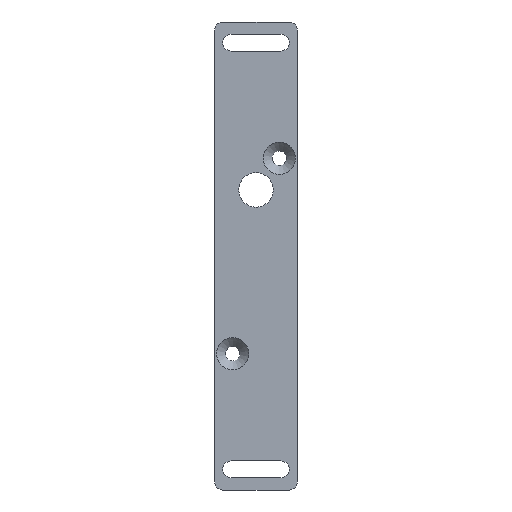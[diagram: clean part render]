
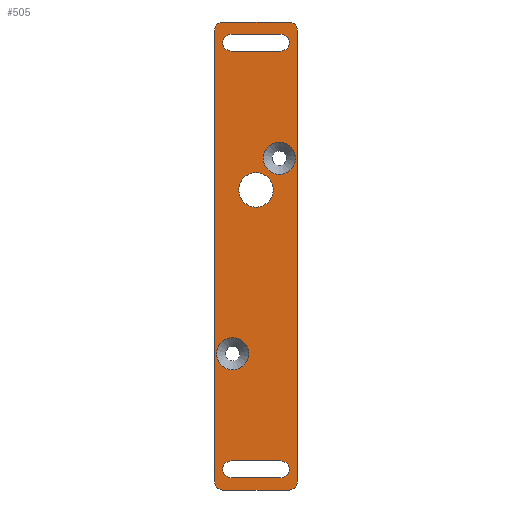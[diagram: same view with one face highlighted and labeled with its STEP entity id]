
A CAD part, front view. The second image highlights one B-rep face of the part: STEP entity #505.
In plain terms, the highlighted planar face has unit normal (0, -1, 0).
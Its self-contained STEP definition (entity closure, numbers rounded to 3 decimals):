
#73=CARTESIAN_POINT('',(0.0,0.0,30.25));
#74=VERTEX_POINT('',#73);
#75=CARTESIAN_POINT('',(0.0,0.0,24.));
#76=DIRECTION('',(0.0,-1.0,0.0));
#77=DIRECTION('',(0.0,0.0,1.0));
#78=AXIS2_PLACEMENT_3D('',#75,#76,#77);
#79=CIRCLE('',#78,6.25);
#80=EDGE_CURVE('',#74,#74,#79,.T.);
#132=CARTESIAN_POINT('',(-8.5,0.,-41.35));
#133=VERTEX_POINT('',#132);
#134=CARTESIAN_POINT('',(-8.5,0.,-35.5));
#135=DIRECTION('',(0.0,1.0,0.0));
#136=DIRECTION('',(0.0,0.0,1.0));
#137=AXIS2_PLACEMENT_3D('',#134,#135,#136);
#138=CIRCLE('',#137,5.85);
#139=EDGE_CURVE('',#133,#133,#138,.T.);
#180=CARTESIAN_POINT('',(8.5,0.,29.65));
#181=VERTEX_POINT('',#180);
#182=CARTESIAN_POINT('',(8.5,0.,35.5));
#183=DIRECTION('',(0.0,1.0,0.0));
#184=DIRECTION('',(0.0,0.0,1.0));
#185=AXIS2_PLACEMENT_3D('',#182,#183,#184);
#186=CIRCLE('',#185,5.85);
#187=EDGE_CURVE('',#181,#181,#186,.T.);
#349=CARTESIAN_POINT('',(-15.,0.0,85.0));
#350=DIRECTION('',(0.0,1.0,0.0));
#351=DIRECTION('',(0.0,0.0,1.0));
#352=AXIS2_PLACEMENT_3D('',#349,#350,#351);
#353=PLANE('',#352);
#354=CARTESIAN_POINT('',(-15.,0.0,-82.));
#355=VERTEX_POINT('',#354);
#356=CARTESIAN_POINT('',(-15.,0.0,82.));
#357=VERTEX_POINT('',#356);
#358=CARTESIAN_POINT('',(-15.,0.0,-82.));
#359=DIRECTION('',(0.0,0.0,1.0));
#360=VECTOR('',#359,164.);
#361=LINE('',#358,#360);
#362=EDGE_CURVE('',#355,#357,#361,.T.);
#363=ORIENTED_EDGE('',*,*,#362,.F.);
#364=CARTESIAN_POINT('',(-12.,0.0,-85.0));
#365=VERTEX_POINT('',#364);
#366=CARTESIAN_POINT('',(-12.,0.0,-82.));
#367=DIRECTION('',(0.0,-1.0,0.0));
#368=DIRECTION('',(0.0,0.0,1.0));
#369=AXIS2_PLACEMENT_3D('',#366,#367,#368);
#370=CIRCLE('',#369,3.);
#371=EDGE_CURVE('',#355,#365,#370,.T.);
#372=ORIENTED_EDGE('',*,*,#371,.T.);
#373=CARTESIAN_POINT('',(12.,0.0,-85.0));
#374=VERTEX_POINT('',#373);
#375=CARTESIAN_POINT('',(12.,0.0,-85.0));
#376=DIRECTION('',(-1.0,0.0,0.0));
#377=VECTOR('',#376,24.0);
#378=LINE('',#375,#377);
#379=EDGE_CURVE('',#374,#365,#378,.T.);
#380=ORIENTED_EDGE('',*,*,#379,.F.);
#381=CARTESIAN_POINT('',(15.,0.0,-82.));
#382=VERTEX_POINT('',#381);
#383=CARTESIAN_POINT('',(12.,0.0,-82.));
#384=DIRECTION('',(0.0,-1.0,0.0));
#385=DIRECTION('',(0.0,0.0,1.0));
#386=AXIS2_PLACEMENT_3D('',#383,#384,#385);
#387=CIRCLE('',#386,3.);
#388=EDGE_CURVE('',#374,#382,#387,.T.);
#389=ORIENTED_EDGE('',*,*,#388,.T.);
#390=CARTESIAN_POINT('',(15.,0.0,82.));
#391=VERTEX_POINT('',#390);
#392=CARTESIAN_POINT('',(15.,0.0,82.));
#393=DIRECTION('',(0.0,0.0,-1.0));
#394=VECTOR('',#393,164.);
#395=LINE('',#392,#394);
#396=EDGE_CURVE('',#391,#382,#395,.T.);
#397=ORIENTED_EDGE('',*,*,#396,.F.);
#398=CARTESIAN_POINT('',(12.,0.0,85.0));
#399=VERTEX_POINT('',#398);
#400=CARTESIAN_POINT('',(12.,0.0,82.));
#401=DIRECTION('',(0.0,-1.0,0.0));
#402=DIRECTION('',(0.0,0.0,1.0));
#403=AXIS2_PLACEMENT_3D('',#400,#401,#402);
#404=CIRCLE('',#403,3.);
#405=EDGE_CURVE('',#391,#399,#404,.T.);
#406=ORIENTED_EDGE('',*,*,#405,.T.);
#407=CARTESIAN_POINT('',(-12.,0.0,85.0));
#408=VERTEX_POINT('',#407);
#409=CARTESIAN_POINT('',(-12.,0.0,85.0));
#410=DIRECTION('',(1.0,0.0,0.0));
#411=VECTOR('',#410,24.0);
#412=LINE('',#409,#411);
#413=EDGE_CURVE('',#408,#399,#412,.T.);
#414=ORIENTED_EDGE('',*,*,#413,.F.);
#415=CARTESIAN_POINT('',(-12.,0.0,82.));
#416=DIRECTION('',(0.0,-1.0,0.0));
#417=DIRECTION('',(0.0,0.0,1.0));
#418=AXIS2_PLACEMENT_3D('',#415,#416,#417);
#419=CIRCLE('',#418,3.);
#420=EDGE_CURVE('',#408,#357,#419,.T.);
#421=ORIENTED_EDGE('',*,*,#420,.T.);
#422=EDGE_LOOP('',(#363,#372,#380,#389,#397,#406,#414,#421));
#423=FACE_OUTER_BOUND('',#422,.T.);
#424=ORIENTED_EDGE('',*,*,#187,.T.);
#425=EDGE_LOOP('',(#424));
#426=FACE_BOUND('',#425,.T.);
#427=ORIENTED_EDGE('',*,*,#139,.T.);
#428=EDGE_LOOP('',(#427));
#429=FACE_BOUND('',#428,.T.);
#430=CARTESIAN_POINT('',(-9.0,0.0,-80.55));
#431=VERTEX_POINT('',#430);
#432=CARTESIAN_POINT('',(9.0,0.0,-80.55));
#433=VERTEX_POINT('',#432);
#434=CARTESIAN_POINT('',(-9.0,0.0,-80.55));
#435=DIRECTION('',(1.0,0.0,0.0));
#436=VECTOR('',#435,18.0);
#437=LINE('',#434,#436);
#438=EDGE_CURVE('',#431,#433,#437,.T.);
#439=ORIENTED_EDGE('',*,*,#438,.F.);
#440=CARTESIAN_POINT('',(-9.,0.0,-74.45));
#441=VERTEX_POINT('',#440);
#442=CARTESIAN_POINT('',(-9.0,0.0,-77.5));
#443=DIRECTION('',(0.0,-1.0,0.0));
#444=DIRECTION('',(0.0,0.0,1.0));
#445=AXIS2_PLACEMENT_3D('',#442,#443,#444);
#446=CIRCLE('',#445,3.05);
#447=EDGE_CURVE('',#441,#431,#446,.T.);
#448=ORIENTED_EDGE('',*,*,#447,.F.);
#449=CARTESIAN_POINT('',(9.,0.0,-74.45));
#450=VERTEX_POINT('',#449);
#451=CARTESIAN_POINT('',(9.,0.0,-74.45));
#452=DIRECTION('',(-1.0,0.0,0.0));
#453=VECTOR('',#452,18.);
#454=LINE('',#451,#453);
#455=EDGE_CURVE('',#450,#441,#454,.T.);
#456=ORIENTED_EDGE('',*,*,#455,.F.);
#457=CARTESIAN_POINT('',(9.0,0.0,-77.5));
#458=DIRECTION('',(0.0,-1.0,0.0));
#459=DIRECTION('',(0.0,0.0,1.0));
#460=AXIS2_PLACEMENT_3D('',#457,#458,#459);
#461=CIRCLE('',#460,3.05);
#462=EDGE_CURVE('',#433,#450,#461,.T.);
#463=ORIENTED_EDGE('',*,*,#462,.F.);
#464=EDGE_LOOP('',(#439,#448,#456,#463));
#465=FACE_BOUND('',#464,.T.);
#466=ORIENTED_EDGE('',*,*,#80,.F.);
#467=EDGE_LOOP('',(#466));
#468=FACE_BOUND('',#467,.T.);
#469=CARTESIAN_POINT('',(-9.,0.0,74.45));
#470=VERTEX_POINT('',#469);
#471=CARTESIAN_POINT('',(-9.0,0.0,80.55));
#472=VERTEX_POINT('',#471);
#473=CARTESIAN_POINT('',(-9.0,0.0,77.5));
#474=DIRECTION('',(0.0,1.0,0.0));
#475=DIRECTION('',(0.0,0.0,1.0));
#476=AXIS2_PLACEMENT_3D('',#473,#474,#475);
#477=CIRCLE('',#476,3.05);
#478=EDGE_CURVE('',#470,#472,#477,.T.);
#479=ORIENTED_EDGE('',*,*,#478,.T.);
#480=CARTESIAN_POINT('',(9.,0.0,80.55));
#481=VERTEX_POINT('',#480);
#482=CARTESIAN_POINT('',(-9.0,0.0,80.55));
#483=DIRECTION('',(1.0,0.0,0.0));
#484=VECTOR('',#483,18.);
#485=LINE('',#482,#484);
#486=EDGE_CURVE('',#472,#481,#485,.T.);
#487=ORIENTED_EDGE('',*,*,#486,.T.);
#488=CARTESIAN_POINT('',(9.0,0.0,74.45));
#489=VERTEX_POINT('',#488);
#490=CARTESIAN_POINT('',(9.0,0.0,77.5));
#491=DIRECTION('',(0.0,1.0,0.0));
#492=DIRECTION('',(0.0,0.0,1.0));
#493=AXIS2_PLACEMENT_3D('',#490,#491,#492);
#494=CIRCLE('',#493,3.05);
#495=EDGE_CURVE('',#481,#489,#494,.T.);
#496=ORIENTED_EDGE('',*,*,#495,.T.);
#497=CARTESIAN_POINT('',(9.0,0.0,74.45));
#498=DIRECTION('',(-1.0,0.0,0.0));
#499=VECTOR('',#498,18.);
#500=LINE('',#497,#499);
#501=EDGE_CURVE('',#489,#470,#500,.T.);
#502=ORIENTED_EDGE('',*,*,#501,.T.);
#503=EDGE_LOOP('',(#479,#487,#496,#502));
#504=FACE_BOUND('',#503,.T.);
#505=ADVANCED_FACE('',(#423,#426,#429,#465,#468,#504),#353,.F.);
